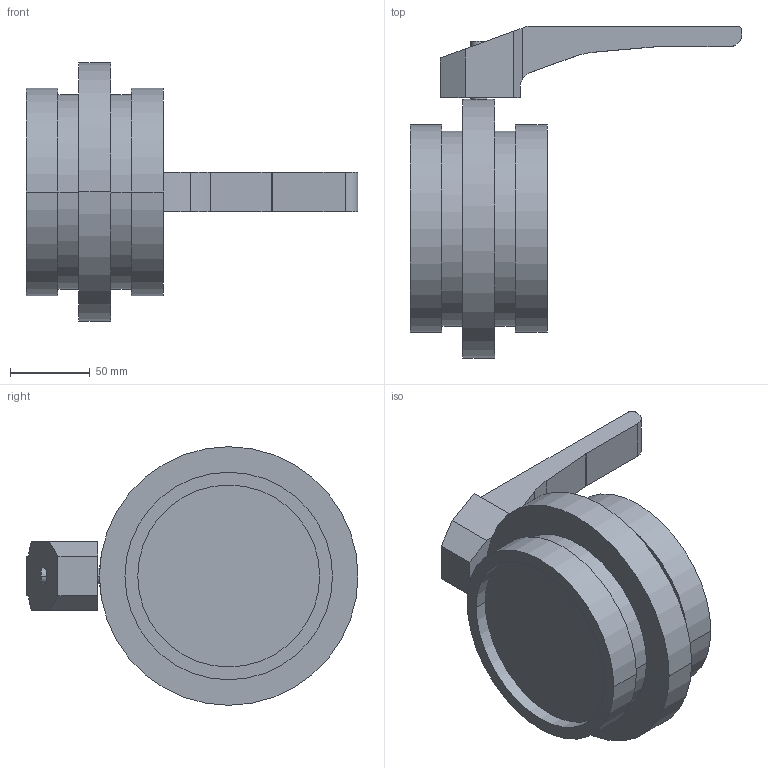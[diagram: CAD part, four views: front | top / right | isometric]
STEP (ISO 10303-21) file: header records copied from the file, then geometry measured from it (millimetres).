
FILE_DESCRIPTION(('Creo Elements/Direct Modeling STEP Export'),'2;1');
FILE_NAME('SV1-100-H-12G.stp','2016-03-17T15:43:37',(''),(''),'PTC Creo Elements/Direct Modeling STEP processor for AP214 (Solid Model)','PTC Creo Elements/Direct Modeling 19.0B 21-Mar-2015 (C) Parametric Technology GmbH','');
FILE_SCHEMA(('AUTOMOTIVE_DESIGN { 1 0 10303 214 1 1 1 1 }'));
Length unit declared in the file: millimetre
Products named in the file (3): SV1-100-H-12G; Handhebel-SV-40-100
Assembly tree (2 placements, depth 2):
  SV1-100-H-12G
    Handhebel-SV-40-100
    SV1-100-H-12G
Bounding box: 208 x 208 x 162 mm (x, y, z)
Volume: 1210987.4 mm3; surface area: 110834.8 mm2
Topology: 2 solids, 2 shells, 50 faces, 117 edges, 78 vertices
Faces by surface type: plane 27, cylinder 23
Entity records: 2465 total; most frequent: CARTESIAN_POINT 1273, ORIENTED_EDGE 234, DIRECTION 229, EDGE_CURVE 117, AXIS2_PLACEMENT_3D 82, VERTEX_POINT 78, VECTOR 65, LINE 65
